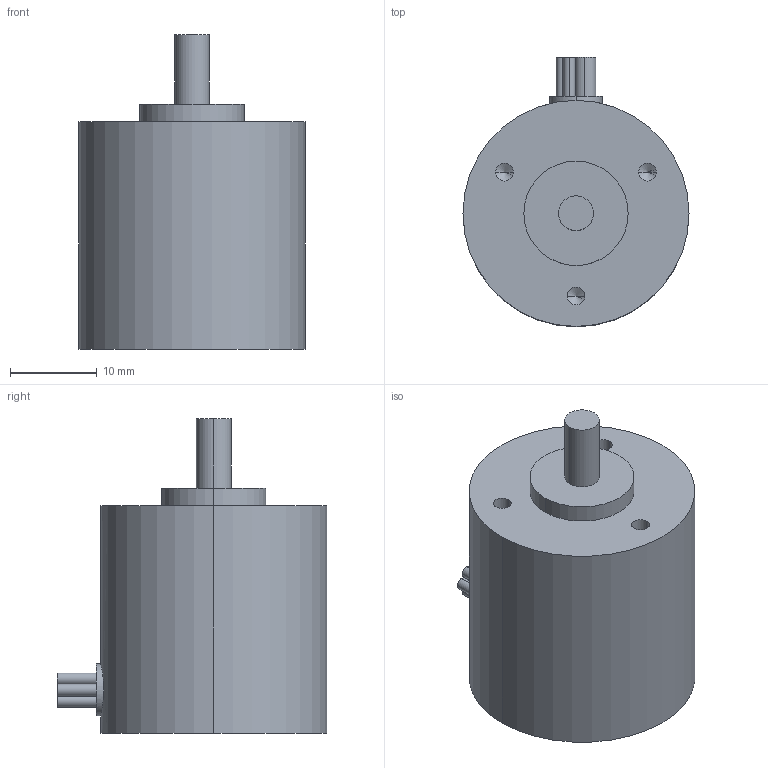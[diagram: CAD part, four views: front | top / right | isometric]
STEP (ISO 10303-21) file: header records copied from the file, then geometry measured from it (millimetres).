
FILE_DESCRIPTION (( 'STEP AP214' ), '1' );
FILE_NAME ('BD-262641.STEP', '2024-10-25T11:31:48', ( '' ), ( '' ), 'SwSTEP 2.0', 'SolidWorks 2024', '' );
FILE_SCHEMA (( 'AUTOMOTIVE_DESIGN' ));
Length unit declared in the file: millimetre
Products named in the file (1): BD-262641
Bounding box: 26 x 31 x 36.2 mm (x, y, z)
Volume: 14254.3 mm3; surface area: 3563.2 mm2
Topology: 1 solids, 1 shells, 37 faces, 78 edges, 47 vertices
Faces by surface type: cylinder 22, plane 9, cone 6
Entity records: 1045 total; most frequent: CARTESIAN_POINT 219, DIRECTION 188, ORIENTED_EDGE 144, AXIS2_PLACEMENT_3D 80, EDGE_CURVE 72, VERTEX_POINT 47, EDGE_LOOP 47, CIRCLE 42
